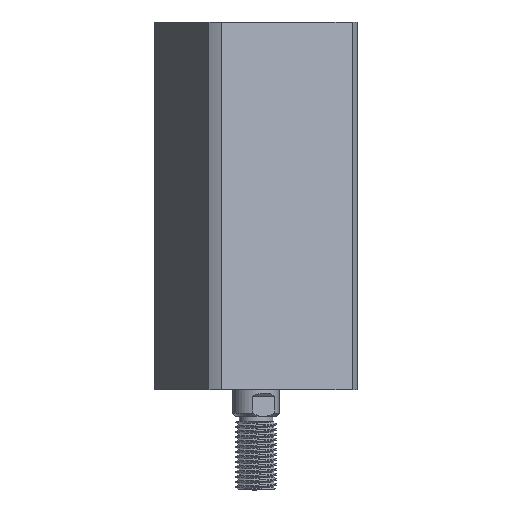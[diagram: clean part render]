
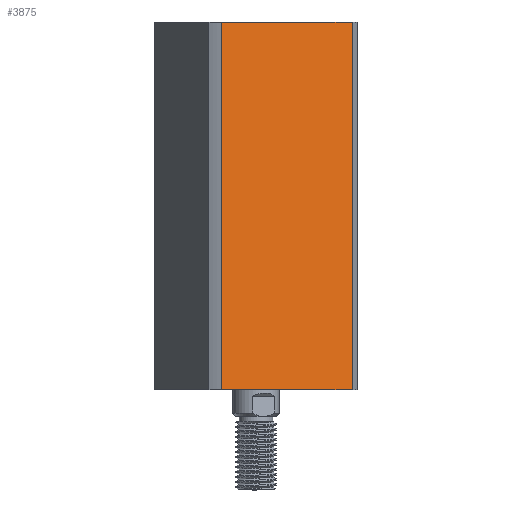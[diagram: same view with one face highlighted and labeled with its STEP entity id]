
A CAD part, left-side view. The second image highlights one B-rep face of the part: STEP entity #3875.
In plain terms, the highlighted planar face has unit normal (-0.924, -0.383, 0) as drawn and (1, 0, 0) by its records, which use the part's own axes.
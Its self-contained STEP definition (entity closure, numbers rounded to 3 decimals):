
#17 = CARTESIAN_POINT ( 'NONE',  ( 24., 24., 110. ) ) ;
#20 = EDGE_LOOP ( 'NONE', ( #5291, #5714, #6121, #3351 ) ) ;
#128 = VECTOR ( 'NONE', #7878, 1000. ) ;
#507 = EDGE_CURVE ( 'NONE', #1931, #8248, #7319, .T. ) ;
#964 = CARTESIAN_POINT ( 'NONE',  ( 24., 21.166, -142. ) ) ;
#1049 = DIRECTION ( 'NONE',  ( 0., 1., 0. ) ) ;
#1114 = CARTESIAN_POINT ( 'NONE',  ( 24., 24., 0. ) ) ;
#1727 = EDGE_CURVE ( 'NONE', #2988, #10198, #3680, .T. ) ;
#1931 = VERTEX_POINT ( 'NONE', #10125 ) ;
#2052 = CARTESIAN_POINT ( 'NONE',  ( 24., 21.166, 110. ) ) ;
#2988 = VERTEX_POINT ( 'NONE', #5795 ) ;
#3351 = ORIENTED_EDGE ( 'NONE', *, *, #507, .F. ) ;
#3427 = VECTOR ( 'NONE', #1049, 1000. ) ;
#3435 = DIRECTION ( 'NONE',  ( -1., 0., 0. ) ) ;
#3680 = LINE ( 'NONE', #1114, #3427 ) ;
#3875 = ADVANCED_FACE ( 'NONE', ( #9256 ), #5885, .F. ) ;
#3946 = CARTESIAN_POINT ( 'NONE',  ( 24., 21.166, 0. ) ) ;
#4468 = LINE ( 'NONE', #964, #4985 ) ;
#4985 = VECTOR ( 'NONE', #10146, 1000. ) ;
#5162 = EDGE_CURVE ( 'NONE', #2988, #1931, #5699, .T. ) ;
#5291 = ORIENTED_EDGE ( 'NONE', *, *, #5162, .F. ) ;
#5699 = LINE ( 'NONE', #7563, #9889 ) ;
#5714 = ORIENTED_EDGE ( 'NONE', *, *, #1727, .T. ) ;
#5795 = CARTESIAN_POINT ( 'NONE',  ( 24., -21.166, 0. ) ) ;
#5885 = PLANE ( 'NONE',  #10606 ) ;
#6121 = ORIENTED_EDGE ( 'NONE', *, *, #10568, .F. ) ;
#7319 = LINE ( 'NONE', #7917, #128 ) ;
#7563 = CARTESIAN_POINT ( 'NONE',  ( 24., -21.166, -142. ) ) ;
#7878 = DIRECTION ( 'NONE',  ( 0., 1., 0. ) ) ;
#7917 = CARTESIAN_POINT ( 'NONE',  ( 24., 24., 110. ) ) ;
#8248 = VERTEX_POINT ( 'NONE', #2052 ) ;
#9251 = DIRECTION ( 'NONE',  ( 0., -1., 0. ) ) ;
#9256 = FACE_OUTER_BOUND ( 'NONE', #20, .T. ) ;
#9889 = VECTOR ( 'NONE', #10074, 1000. ) ;
#10074 = DIRECTION ( 'NONE',  ( 0., 0., 1. ) ) ;
#10125 = CARTESIAN_POINT ( 'NONE',  ( 24., -21.166, 110. ) ) ;
#10146 = DIRECTION ( 'NONE',  ( 0., 0., -1. ) ) ;
#10198 = VERTEX_POINT ( 'NONE', #3946 ) ;
#10568 = EDGE_CURVE ( 'NONE', #8248, #10198, #4468, .T. ) ;
#10606 = AXIS2_PLACEMENT_3D ( 'NONE', #17, #3435, #9251 ) ;
